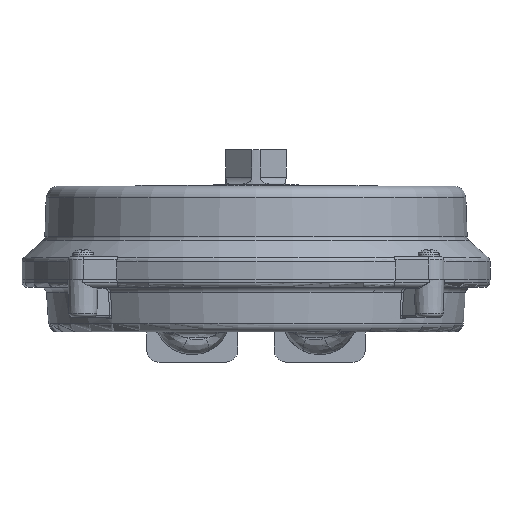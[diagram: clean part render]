
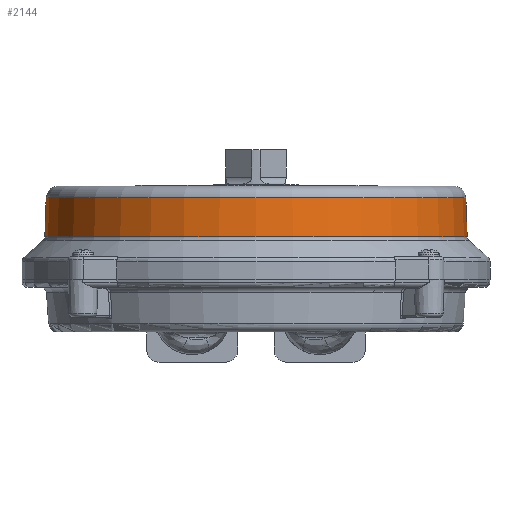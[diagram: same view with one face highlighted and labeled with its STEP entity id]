
A CAD part, left-side view. The second image highlights one B-rep face of the part: STEP entity #2144.
In plain terms, the highlighted conical face has half-angle 2 degrees and reference radius 69.224 mm.
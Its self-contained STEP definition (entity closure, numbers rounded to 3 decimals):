
#2144 = ADVANCED_FACE( '', ( #5280, #5281 ), #5282, .T. );
#5280 = FACE_BOUND( '', #12233, .T. );
#5281 = FACE_OUTER_BOUND( '', #12234, .T. );
#5282 = CONICAL_SURFACE( '', #12235, 69.224, 0.035 );
#12233 = EDGE_LOOP( '', ( #25433 ) );
#12234 = EDGE_LOOP( '', ( #25434 ) );
#12235 = AXIS2_PLACEMENT_3D( '', #25435, #25436, #25437 );
#25433 = ORIENTED_EDGE( '', *, *, #35284, .T. );
#25434 = ORIENTED_EDGE( '', *, *, #36540, .T. );
#25435 = CARTESIAN_POINT( '', ( 0., 0., 44.24 ) );
#25436 = DIRECTION( '', ( 0., 0., -1. ) );
#25437 = DIRECTION( '', ( 1., 0., 0. ) );
#35284 = EDGE_CURVE( '', #40521, #40521, #40522, .T. );
#36540 = EDGE_CURVE( '', #42590, #42590, #42591, .F. );
#40521 = VERTEX_POINT( '', #49671 );
#40522 = CIRCLE( '', #49672, 69.224 );
#42590 = VERTEX_POINT( '', #55325 );
#42591 = CIRCLE( '', #55326, 69.67 );
#49671 = CARTESIAN_POINT( '', ( 69.224, 0., 44.24 ) );
#49672 = AXIS2_PLACEMENT_3D( '', #63950, #63951, #63952 );
#55325 = CARTESIAN_POINT( '', ( 69.67, 0., 31.489 ) );
#55326 = AXIS2_PLACEMENT_3D( '', #65036, #65037, #65038 );
#63950 = CARTESIAN_POINT( '', ( 0., 0., 44.24 ) );
#63951 = DIRECTION( '', ( 0., 0., -1. ) );
#63952 = DIRECTION( '', ( 1., 0., 0. ) );
#65036 = CARTESIAN_POINT( '', ( 0., 0., 31.489 ) );
#65037 = DIRECTION( '', ( 0., 0., -1. ) );
#65038 = DIRECTION( '', ( 1., 0., 0. ) );
